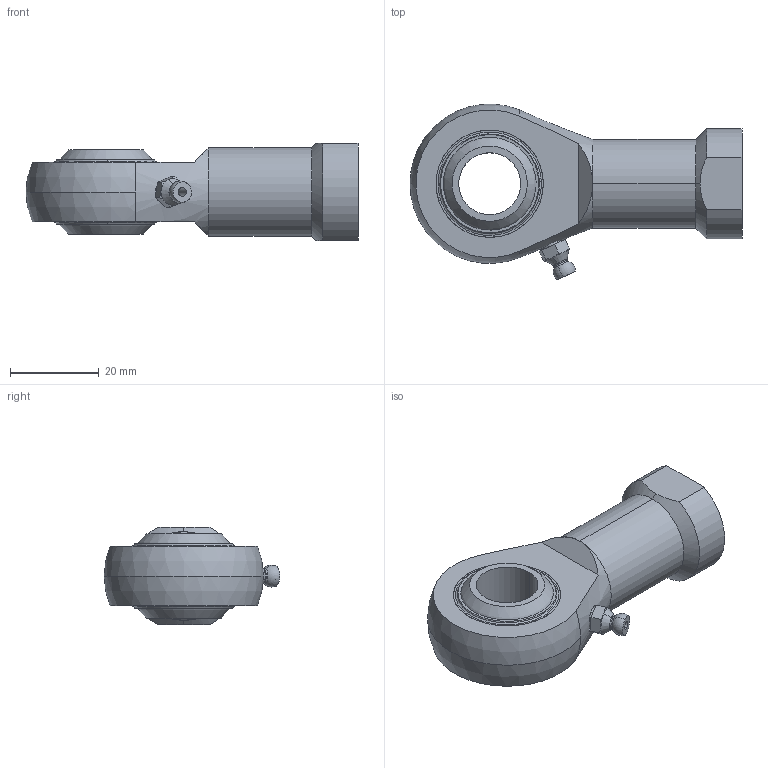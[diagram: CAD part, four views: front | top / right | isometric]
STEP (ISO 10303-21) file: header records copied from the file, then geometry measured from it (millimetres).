
FILE_DESCRIPTION (( 'STEP AP203' ), '1' );
FILE_NAME ('65760.W0114.step', '2014-02-11T16:42:12', ( 'User' ), ( '' ), 'SwSTEP 2.0', 'SolidWorks 2009', '' );
FILE_SCHEMA (( 'CONFIG_CONTROL_DESIGN' ));
Length unit declared in the file: millimetre
Products named in the file (5): 65760.W0114; Part1_65760.W0114; Part2_65760.W0114; Part3_M5; Part4_65760.W0114
Assembly tree (5 placements, depth 2):
  65760.W0114
    Part2_65760.W0114
    Part1_65760.W0114
    Part4_65760.W0114  x2
    Part3_M5
Bounding box: 75 x 39.66 x 22 mm (x, y, z)
Volume: 21073.7 mm3; surface area: 13169.8 mm2
Topology: 46 solids, 46 shells, 183 faces, 524 edges, 353 vertices
Faces by surface type: sphere 98, plane 27, torus 22, cylinder 20, cone 16
Entity records: 4813 total; most frequent: CARTESIAN_POINT 907, DIRECTION 814, ORIENTED_EDGE 558, AXIS2_PLACEMENT_3D 385, EDGE_CURVE 279, VERTEX_POINT 208, CIRCLE 207, EDGE_LOOP 189
